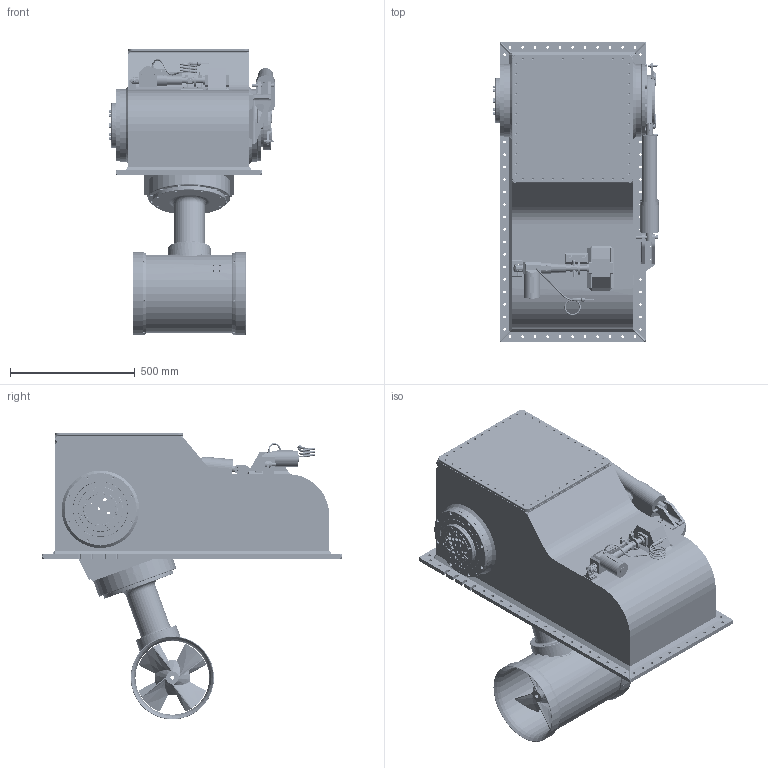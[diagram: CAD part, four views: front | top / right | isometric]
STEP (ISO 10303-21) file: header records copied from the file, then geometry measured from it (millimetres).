
FILE_DESCRIPTION(/* description */ (''),/* implementation_level */ '2;1');
FILE_NAME(/* name */ 'Q:\THRUSTERS\THRUSTER SALES & SUPPORT DOCS\THRUSTER Sales\E-S\E-0300-S\E-0300-S DEPLOYED.stp',/* time_stamp */ '2021-03-24T12:21:01+00:00',/* author */ ('Barney.Webborn'),/* organization */ (''),/* preprocessor_version */ 'ST-DEVELOPER v17.2',/* originating_system */ 'Autodesk Inventor 2019',/* authorisation */ '');
FILE_SCHEMA (('AUTOMOTIVE_DESIGN { 1 0 10303 214 3 1 1 }'));
Products named in the file (1): E-0300-S_Shrinkwrap_1
Bounding box: 664.75 x 1197 x 1147.95 mm (x, y, z)
Volume: 55879031.5 mm3; surface area: 7792047 mm2
Topology: 9 solids, 644 shells, 4788 faces, 14117 edges, 10404 vertices
Faces by surface type: plane 2403, cylinder 1432, bspline 447, cone 297, torus 183, sphere 26
Full cylindrical faces by diameter (mm): 2 x8, 2.459 x4, 2.5 x2, 3 x8, 3.2 x1, 3.3 x4, 4.2 x40, 4.917 x4, 5 x5, 5.1 x12, 5.2 x16, 5.5 x33, 5.85 x2, 6 x8, 6.2 x4, 6.4 x4, 6.5 x4, 6.647 x8, 6.8 x4, 7 x4, 8 x7, 8.16 x1, 8.3 x81, 8.5 x57, 8.8 x95, 9 x28, 9.5 x1, 10 x7, 10.3 x20, 10.4 x12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
Entity records: 192193 total; most frequent: CARTESIAN_POINT 59707, DIRECTION 25842, ORIENTED_EDGE 24792, EDGE_CURVE 13970, VERTEX_POINT 10407, AXIS2_PLACEMENT_3D 9058, LINE 7726, VECTOR 7726
